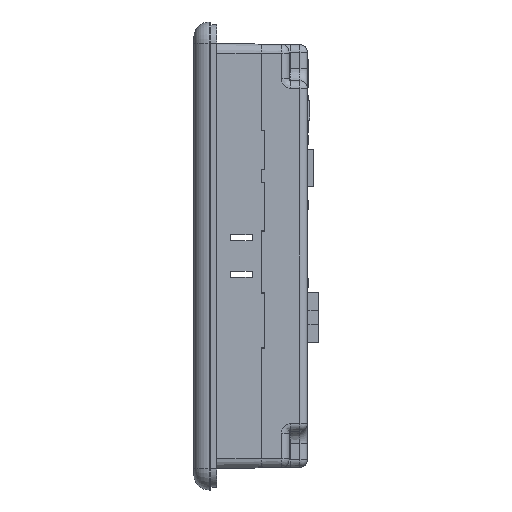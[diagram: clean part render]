
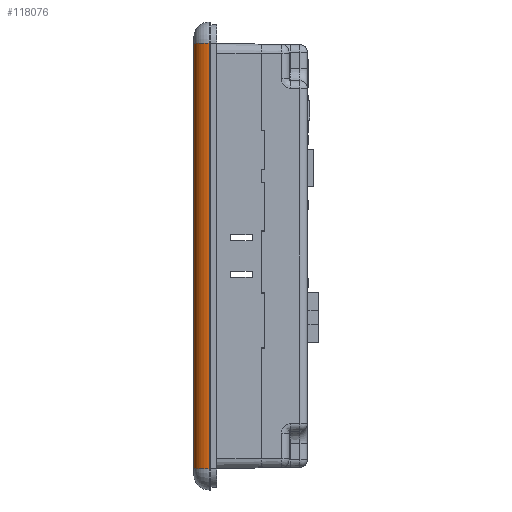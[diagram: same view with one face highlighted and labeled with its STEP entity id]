
A CAD part, left-side view. The second image highlights one B-rep face of the part: STEP entity #118076.
In plain terms, the highlighted cylindrical face has radius 5 mm (diameter 10 mm), a partial arc.
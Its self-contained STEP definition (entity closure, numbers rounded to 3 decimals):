
#3486 = EDGE_CURVE ( 'NONE', #87162, #120259, #115700, .T. ) ;
#4672 = VERTEX_POINT ( 'NONE', #23628 ) ;
#6362 = CARTESIAN_POINT ( 'NONE',  ( -106.2, 17., -69.2 ) ) ;
#18445 = CARTESIAN_POINT ( 'NONE',  ( -111.2, 17., -69.2 ) ) ;
#19355 = DIRECTION ( 'NONE',  ( 0., 0., -1. ) ) ;
#23628 = CARTESIAN_POINT ( 'NONE',  ( -111.2, 17., 69.2 ) ) ;
#29906 = VECTOR ( 'NONE', #154967, 1000. ) ;
#30208 = AXIS2_PLACEMENT_3D ( 'NONE', #146094, #145941, #145900 ) ;
#32076 = DIRECTION ( 'NONE',  ( 0., 0., -1. ) ) ;
#32593 = CARTESIAN_POINT ( 'NONE',  ( -106.2, 22., 69.2 ) ) ;
#33609 = ORIENTED_EDGE ( 'NONE', *, *, #48680, .F. ) ;
#36177 = DIRECTION ( 'NONE',  ( 0., 0., -1. ) ) ;
#37000 = VECTOR ( 'NONE', #32076, 1000. ) ;
#48680 = EDGE_CURVE ( 'NONE', #4672, #87162, #145353, .T. ) ;
#59379 = CIRCLE ( 'NONE', #74643, 5. ) ;
#59594 = EDGE_CURVE ( 'NONE', #120259, #130284, #138278, .T. ) ;
#70511 = EDGE_CURVE ( 'NONE', #4672, #130284, #59379, .T. ) ;
#74643 = AXIS2_PLACEMENT_3D ( 'NONE', #117619, #36177, #131202 ) ;
#74746 = DIRECTION ( 'NONE',  ( -1., 0., 0. ) ) ;
#80143 = CARTESIAN_POINT ( 'NONE',  ( -106.2, 22., -69.2 ) ) ;
#87162 = VERTEX_POINT ( 'NONE', #145965 ) ;
#95251 = ORIENTED_EDGE ( 'NONE', *, *, #59594, .F. ) ;
#101107 = EDGE_LOOP ( 'NONE', ( #108942, #95251, #167693, #33609 ) ) ;
#108942 = ORIENTED_EDGE ( 'NONE', *, *, #70511, .T. ) ;
#113926 = FACE_OUTER_BOUND ( 'NONE', #101107, .T. ) ;
#115700 = CIRCLE ( 'NONE', #30208, 5. ) ;
#117619 = CARTESIAN_POINT ( 'NONE',  ( -106.2, 17., 69.2 ) ) ;
#118076 = ADVANCED_FACE ( 'NONE', ( #113926 ), #135364, .T. ) ;
#120259 = VERTEX_POINT ( 'NONE', #80143 ) ;
#129334 = AXIS2_PLACEMENT_3D ( 'NONE', #6362, #19355, #74746 ) ;
#130284 = VERTEX_POINT ( 'NONE', #131570 ) ;
#131202 = DIRECTION ( 'NONE',  ( -1., 0., 0. ) ) ;
#131570 = CARTESIAN_POINT ( 'NONE',  ( -106.2, 22., 69.2 ) ) ;
#135364 = CYLINDRICAL_SURFACE ( 'NONE', #129334, 5. ) ;
#138278 = LINE ( 'NONE', #32593, #29906 ) ;
#145353 = LINE ( 'NONE', #18445, #37000 ) ;
#145900 = DIRECTION ( 'NONE',  ( -1., 0., 0. ) ) ;
#145941 = DIRECTION ( 'NONE',  ( 0., 0., -1. ) ) ;
#145965 = CARTESIAN_POINT ( 'NONE',  ( -111.2, 17., -69.2 ) ) ;
#146094 = CARTESIAN_POINT ( 'NONE',  ( -106.2, 17., -69.2 ) ) ;
#154967 = DIRECTION ( 'NONE',  ( 0., 0., 1. ) ) ;
#167693 = ORIENTED_EDGE ( 'NONE', *, *, #3486, .F. ) ;
